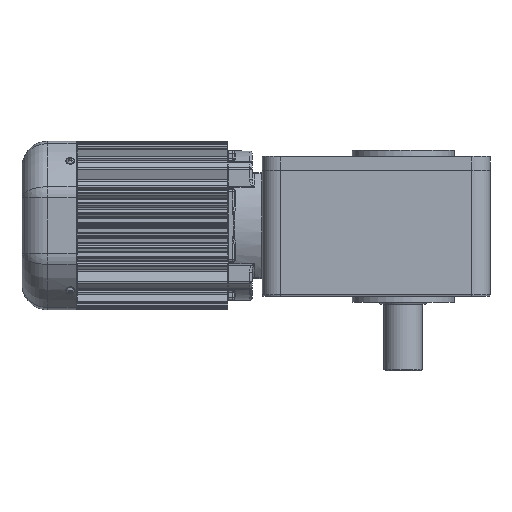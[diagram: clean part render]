
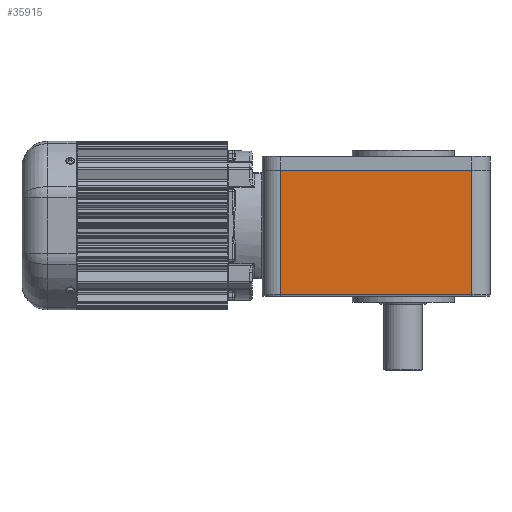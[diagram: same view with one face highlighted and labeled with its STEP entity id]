
A CAD part, front view. The second image highlights one B-rep face of the part: STEP entity #35915.
In plain terms, the highlighted planar face has unit normal (0, -1, 0).
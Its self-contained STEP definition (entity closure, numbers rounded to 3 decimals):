
#2637=LINE('',#63770,#5070);
#2641=LINE('',#63782,#5074);
#2642=LINE('',#63784,#5075);
#2643=LINE('',#63785,#5076);
#5070=VECTOR('',#48816,103.);
#5074=VECTOR('',#48830,159.);
#5075=VECTOR('',#48831,159.);
#5076=VECTOR('',#48832,103.);
#8191=FACE_OUTER_BOUND('',#10292,.T.);
#10292=EDGE_LOOP('',(#29303,#29304,#29305,#29306));
#15628=VERTEX_POINT('',#63764);
#15630=VERTEX_POINT('',#63768);
#15633=VERTEX_POINT('',#63781);
#15634=VERTEX_POINT('',#63783);
#20330=EDGE_CURVE('',#15630,#15628,#2637,.T.);
#20336=EDGE_CURVE('',#15628,#15633,#2641,.T.);
#20337=EDGE_CURVE('',#15634,#15630,#2642,.T.);
#20338=EDGE_CURVE('',#15634,#15633,#2643,.T.);
#29303=ORIENTED_EDGE('',*,*,#20336,.F.);
#29304=ORIENTED_EDGE('',*,*,#20330,.F.);
#29305=ORIENTED_EDGE('',*,*,#20337,.F.);
#29306=ORIENTED_EDGE('',*,*,#20338,.T.);
#32207=PLANE('',#39637);
#35915=ADVANCED_FACE('',(#8191),#32207,.T.);
#39637=AXIS2_PLACEMENT_3D('',#63780,#48828,#48829);
#48816=DIRECTION('',(0.,0.,-1.));
#48828=DIRECTION('center_axis',(0.,-1.,0.));
#48829=DIRECTION('ref_axis',(0.,0.,-1.));
#48830=DIRECTION('',(-1.,0.,0.));
#48831=DIRECTION('',(1.,0.,0.));
#48832=DIRECTION('',(0.,0.,-1.));
#63764=CARTESIAN_POINT('',(57.,-104.,-57.5));
#63768=CARTESIAN_POINT('',(57.,-104.,45.5));
#63770=CARTESIAN_POINT('',(57.,-104.,45.5));
#63780=CARTESIAN_POINT('Origin',(57.,-104.,0.));
#63781=CARTESIAN_POINT('',(-102.,-104.,-57.5));
#63782=CARTESIAN_POINT('',(57.,-104.,-57.5));
#63783=CARTESIAN_POINT('',(-102.,-104.,45.5));
#63784=CARTESIAN_POINT('',(-102.,-104.,45.5));
#63785=CARTESIAN_POINT('',(-102.,-104.,45.5));
